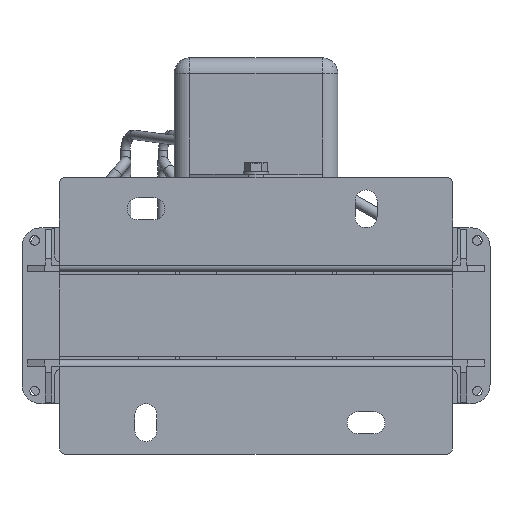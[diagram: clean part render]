
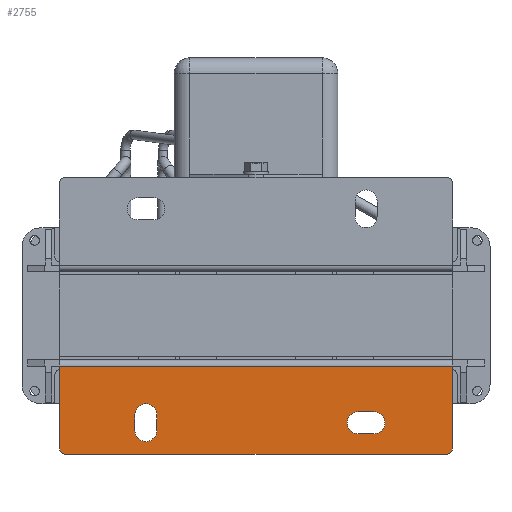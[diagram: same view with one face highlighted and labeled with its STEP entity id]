
A CAD part, front view. The second image highlights one B-rep face of the part: STEP entity #2755.
In plain terms, the highlighted planar face has unit normal (0, -1, 0).
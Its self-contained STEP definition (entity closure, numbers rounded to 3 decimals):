
#2755=ADVANCED_FACE('',(#14236,#14238,#14240),#14242,.F.);
#14236=FACE_BOUND('',#14237,.T.);
#14237=EDGE_LOOP('',(#23641,#23642,#23643,#23644,#23645,#23646));
#14238=FACE_BOUND('',#14239,.T.);
#14239=EDGE_LOOP('',(#23647,#23648,#23649,#23650));
#14240=FACE_BOUND('',#14241,.T.);
#14241=EDGE_LOOP('',(#23651,#23652,#23653,#23654));
#14242=PLANE('',#14243);
#14243=AXIS2_PLACEMENT_3D('',#14244,#14245,#14246);
#14244=CARTESIAN_POINT('',(0.,-2.,125.));
#14245=DIRECTION('',(0.,1.,0.));
#14246=DIRECTION('',(-1.,0.,0.));
#23641=ORIENTED_EDGE('',*,*,#29583,.F.);
#23642=ORIENTED_EDGE('',*,*,#29584,.T.);
#23643=ORIENTED_EDGE('',*,*,#29585,.T.);
#23644=ORIENTED_EDGE('',*,*,#29586,.T.);
#23645=ORIENTED_EDGE('',*,*,#29587,.F.);
#23646=ORIENTED_EDGE('',*,*,#29588,.T.);
#23647=ORIENTED_EDGE('',*,*,#29589,.T.);
#23648=ORIENTED_EDGE('',*,*,#29590,.T.);
#23649=ORIENTED_EDGE('',*,*,#29591,.T.);
#23650=ORIENTED_EDGE('',*,*,#29592,.T.);
#23651=ORIENTED_EDGE('',*,*,#29593,.T.);
#23652=ORIENTED_EDGE('',*,*,#29550,.T.);
#23653=ORIENTED_EDGE('',*,*,#29594,.T.);
#23654=ORIENTED_EDGE('',*,*,#29595,.T.);
#29550=EDGE_CURVE('',#32603,#32608,#32610,.T.);
#29583=EDGE_CURVE('',#32671,#32672,#32673,.T.);
#29584=EDGE_CURVE('',#32671,#32674,#32675,.T.);
#29585=EDGE_CURVE('',#32674,#32676,#32677,.T.);
#29586=EDGE_CURVE('',#32676,#32678,#32679,.T.);
#29587=EDGE_CURVE('',#32680,#32678,#32681,.T.);
#29588=EDGE_CURVE('',#32680,#32672,#32682,.T.);
#29589=EDGE_CURVE('',#32683,#32684,#32685,.T.);
#29590=EDGE_CURVE('',#32684,#32686,#32687,.T.);
#29591=EDGE_CURVE('',#32686,#32688,#32689,.T.);
#29592=EDGE_CURVE('',#32688,#32683,#32690,.T.);
#29593=EDGE_CURVE('',#32691,#32603,#32692,.T.);
#29594=EDGE_CURVE('',#32608,#32693,#32694,.T.);
#29595=EDGE_CURVE('',#32693,#32691,#32695,.T.);
#32603=VERTEX_POINT('',#37834);
#32608=VERTEX_POINT('',#37844);
#32610=CIRCLE('',#37848,3.5);
#32671=VERTEX_POINT('',#37991);
#32672=VERTEX_POINT('',#37992);
#32673=LINE('',#37993,#37994);
#32674=VERTEX_POINT('',#37996);
#32675=LINE('',#37997,#37998);
#32676=VERTEX_POINT('',#38000);
#32677=LINE('',#38001,#38002);
#32678=VERTEX_POINT('',#38004);
#32679=CIRCLE('',#38005,2.);
#32680=VERTEX_POINT('',#38009);
#32681=LINE('',#38010,#38011);
#32682=CIRCLE('',#38013,2.);
#32683=VERTEX_POINT('',#38017);
#32684=VERTEX_POINT('',#38018);
#32685=LINE('',#38019,#38020);
#32686=VERTEX_POINT('',#38022);
#32687=CIRCLE('',#38023,3.5);
#32688=VERTEX_POINT('',#38027);
#32689=LINE('',#38028,#38029);
#32690=CIRCLE('',#38031,3.5);
#32691=VERTEX_POINT('',#38035);
#32692=LINE('',#38036,#38037);
#32693=VERTEX_POINT('',#38039);
#32694=LINE('',#38040,#38041);
#32695=CIRCLE('',#38043,3.5);
#37834=CARTESIAN_POINT('',(-13.5,-2.,100.));
#37844=CARTESIAN_POINT('',(-6.5,-2.,100.));
#37848=AXIS2_PLACEMENT_3D('',#37849,#37850,#37851);
#37849=CARTESIAN_POINT('',(-10.,-2.,100.));
#37850=DIRECTION('',(0.,1.,0.));
#37851=DIRECTION('',(-1.,0.,0.));
#37991=CARTESIAN_POINT('',(-28.,-2.,125.));
#37992=CARTESIAN_POINT('',(-2.,-2.,125.));
#37993=CARTESIAN_POINT('',(-28.,-2.,125.));
#37994=VECTOR('',#37995,1.);
#37995=DIRECTION('',(1.,0.,0.));
#37996=CARTESIAN_POINT('',(-28.,-2.,0.));
#37997=CARTESIAN_POINT('',(-28.,-2.,125.));
#37998=VECTOR('',#37999,1.);
#37999=DIRECTION('',(0.,0.,-1.));
#38000=CARTESIAN_POINT('',(-2.,-2.,0.));
#38001=CARTESIAN_POINT('',(-28.,-2.,0.));
#38002=VECTOR('',#38003,1.);
#38003=DIRECTION('',(1.,0.,0.));
#38004=CARTESIAN_POINT('',(0.,-2.,2.));
#38005=AXIS2_PLACEMENT_3D('',#38006,#38007,#38008);
#38006=CARTESIAN_POINT('',(-2.,-2.,2.));
#38007=DIRECTION('',(0.,-1.,0.));
#38008=DIRECTION('',(0.,0.,-1.));
#38009=CARTESIAN_POINT('',(0.,-2.,123.));
#38010=CARTESIAN_POINT('',(0.,-2.,123.));
#38011=VECTOR('',#38012,1.);
#38012=DIRECTION('',(0.,0.,-1.));
#38013=AXIS2_PLACEMENT_3D('',#38014,#38015,#38016);
#38014=CARTESIAN_POINT('',(-2.,-2.,123.));
#38015=DIRECTION('',(0.,-1.,0.));
#38016=DIRECTION('',(1.,0.,0.));
#38017=CARTESIAN_POINT('',(-7.5,-2.,24.));
#38018=CARTESIAN_POINT('',(-12.5,-2.,24.));
#38019=CARTESIAN_POINT('',(-7.5,-2.,24.));
#38020=VECTOR('',#38021,1.);
#38021=DIRECTION('',(-1.,0.,0.));
#38022=CARTESIAN_POINT('',(-12.5,-2.,31.));
#38023=AXIS2_PLACEMENT_3D('',#38024,#38025,#38026);
#38024=CARTESIAN_POINT('',(-12.5,-2.,27.5));
#38025=DIRECTION('',(0.,1.,0.));
#38026=DIRECTION('',(0.,0.,-1.));
#38027=CARTESIAN_POINT('',(-7.5,-2.,31.));
#38028=CARTESIAN_POINT('',(-12.5,-2.,31.));
#38029=VECTOR('',#38030,1.);
#38030=DIRECTION('',(1.,0.,0.));
#38031=AXIS2_PLACEMENT_3D('',#38032,#38033,#38034);
#38032=CARTESIAN_POINT('',(-7.5,-2.,27.5));
#38033=DIRECTION('',(0.,1.,0.));
#38034=DIRECTION('',(0.,0.,1.));
#38035=CARTESIAN_POINT('',(-13.5,-2.,95.));
#38036=CARTESIAN_POINT('',(-13.5,-2.,95.));
#38037=VECTOR('',#38038,1.);
#38038=DIRECTION('',(0.,0.,1.));
#38039=CARTESIAN_POINT('',(-6.5,-2.,95.));
#38040=CARTESIAN_POINT('',(-6.5,-2.,100.));
#38041=VECTOR('',#38042,1.);
#38042=DIRECTION('',(0.,0.,-1.));
#38043=AXIS2_PLACEMENT_3D('',#38044,#38045,#38046);
#38044=CARTESIAN_POINT('',(-10.,-2.,95.));
#38045=DIRECTION('',(0.,1.,0.));
#38046=DIRECTION('',(1.,0.,0.));
